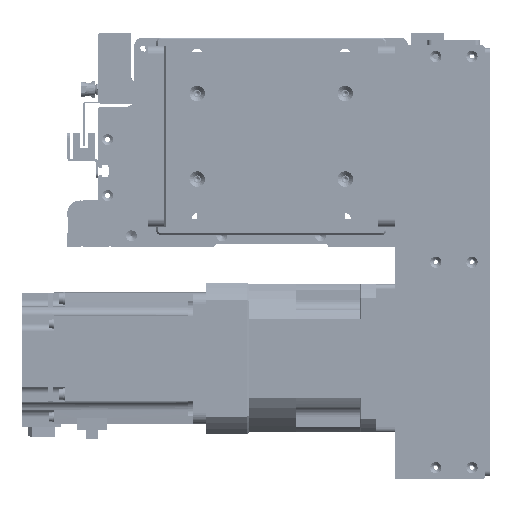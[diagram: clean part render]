
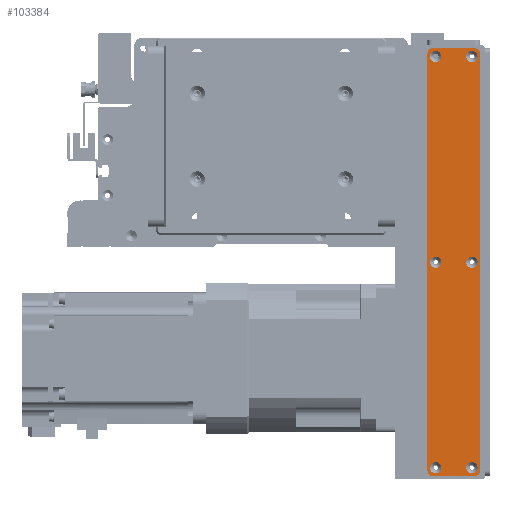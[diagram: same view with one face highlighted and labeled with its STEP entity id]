
A CAD part, front view. The second image highlights one B-rep face of the part: STEP entity #103384.
In plain terms, the highlighted planar face has unit normal (0, -1, 0).
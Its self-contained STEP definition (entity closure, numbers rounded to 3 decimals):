
#3943=FACE_BOUND('',#15254,.T.);
#3944=FACE_BOUND('',#15255,.T.);
#3945=FACE_BOUND('',#15256,.T.);
#3946=FACE_BOUND('',#15257,.T.);
#3947=FACE_BOUND('',#15258,.T.);
#3948=FACE_BOUND('',#15259,.T.);
#9142=FACE_OUTER_BOUND('',#15253,.T.);
#15253=EDGE_LOOP('',(#93286,#93287,#93288,#93289,#93290,#93291,#93292,#93293));
#15254=EDGE_LOOP('',(#93294));
#15255=EDGE_LOOP('',(#93295));
#15256=EDGE_LOOP('',(#93296));
#15257=EDGE_LOOP('',(#93297));
#15258=EDGE_LOOP('',(#93298));
#15259=EDGE_LOOP('',(#93299));
#18063=CIRCLE('',#112177,3.45);
#18066=CIRCLE('',#112182,3.45);
#18069=CIRCLE('',#112187,3.45);
#18072=CIRCLE('',#112192,3.45);
#18075=CIRCLE('',#112197,3.45);
#18078=CIRCLE('',#112202,3.45);
#18081=CIRCLE('',#112207,3.);
#18083=CIRCLE('',#112210,3.);
#18084=CIRCLE('',#112211,3.);
#18085=CIRCLE('',#112212,3.);
#29292=LINE('',#173495,#40616);
#29293=LINE('',#173499,#40617);
#29294=LINE('',#173503,#40618);
#29295=LINE('',#173506,#40619);
#40616=VECTOR('',#139281,10.);
#40617=VECTOR('',#139284,10.);
#40618=VECTOR('',#139287,10.);
#40619=VECTOR('',#139290,10.);
#50270=VERTEX_POINT('',#173425);
#50273=VERTEX_POINT('',#173435);
#50276=VERTEX_POINT('',#173445);
#50279=VERTEX_POINT('',#173455);
#50282=VERTEX_POINT('',#173465);
#50285=VERTEX_POINT('',#173475);
#50288=VERTEX_POINT('',#173485);
#50289=VERTEX_POINT('',#173486);
#50292=VERTEX_POINT('',#173494);
#50293=VERTEX_POINT('',#173496);
#50294=VERTEX_POINT('',#173498);
#50295=VERTEX_POINT('',#173500);
#50296=VERTEX_POINT('',#173502);
#50297=VERTEX_POINT('',#173504);
#64669=EDGE_CURVE('',#50270,#50270,#18063,.T.);
#64674=EDGE_CURVE('',#50273,#50273,#18066,.T.);
#64679=EDGE_CURVE('',#50276,#50276,#18069,.T.);
#64684=EDGE_CURVE('',#50279,#50279,#18072,.T.);
#64689=EDGE_CURVE('',#50282,#50282,#18075,.T.);
#64694=EDGE_CURVE('',#50285,#50285,#18078,.T.);
#64699=EDGE_CURVE('',#50288,#50289,#18081,.T.);
#64703=EDGE_CURVE('',#50288,#50292,#29292,.T.);
#64704=EDGE_CURVE('',#50293,#50292,#18083,.T.);
#64705=EDGE_CURVE('',#50293,#50294,#29293,.T.);
#64706=EDGE_CURVE('',#50295,#50294,#18084,.T.);
#64707=EDGE_CURVE('',#50295,#50296,#29294,.T.);
#64708=EDGE_CURVE('',#50297,#50296,#18085,.T.);
#64709=EDGE_CURVE('',#50297,#50289,#29295,.T.);
#93286=ORIENTED_EDGE('',*,*,#64699,.F.);
#93287=ORIENTED_EDGE('',*,*,#64703,.T.);
#93288=ORIENTED_EDGE('',*,*,#64704,.F.);
#93289=ORIENTED_EDGE('',*,*,#64705,.T.);
#93290=ORIENTED_EDGE('',*,*,#64706,.F.);
#93291=ORIENTED_EDGE('',*,*,#64707,.T.);
#93292=ORIENTED_EDGE('',*,*,#64708,.F.);
#93293=ORIENTED_EDGE('',*,*,#64709,.T.);
#93294=ORIENTED_EDGE('',*,*,#64669,.T.);
#93295=ORIENTED_EDGE('',*,*,#64674,.T.);
#93296=ORIENTED_EDGE('',*,*,#64679,.T.);
#93297=ORIENTED_EDGE('',*,*,#64684,.T.);
#93298=ORIENTED_EDGE('',*,*,#64689,.T.);
#93299=ORIENTED_EDGE('',*,*,#64694,.T.);
#98175=PLANE('',#112209);
#103384=ADVANCED_FACE('',(#9142,#3943,#3944,#3945,#3946,#3947,#3948),#98175,
 .T.);
#112177=AXIS2_PLACEMENT_3D('',#173426,#139201,#139202);
#112182=AXIS2_PLACEMENT_3D('',#173436,#139213,#139214);
#112187=AXIS2_PLACEMENT_3D('',#173446,#139225,#139226);
#112192=AXIS2_PLACEMENT_3D('',#173456,#139237,#139238);
#112197=AXIS2_PLACEMENT_3D('',#173466,#139249,#139250);
#112202=AXIS2_PLACEMENT_3D('',#173476,#139261,#139262);
#112207=AXIS2_PLACEMENT_3D('',#173487,#139273,#139274);
#112209=AXIS2_PLACEMENT_3D('',#173493,#139279,#139280);
#112210=AXIS2_PLACEMENT_3D('',#173497,#139282,#139283);
#112211=AXIS2_PLACEMENT_3D('',#173501,#139285,#139286);
#112212=AXIS2_PLACEMENT_3D('',#173505,#139288,#139289);
#139201=DIRECTION('center_axis',(0.,1.,0.));
#139202=DIRECTION('ref_axis',(1.,0.,0.));
#139213=DIRECTION('center_axis',(0.,1.,0.));
#139214=DIRECTION('ref_axis',(1.,0.,0.));
#139225=DIRECTION('center_axis',(0.,1.,0.));
#139226=DIRECTION('ref_axis',(1.,0.,0.));
#139237=DIRECTION('center_axis',(0.,1.,0.));
#139238=DIRECTION('ref_axis',(1.,0.,0.));
#139249=DIRECTION('center_axis',(0.,1.,0.));
#139250=DIRECTION('ref_axis',(1.,0.,0.));
#139261=DIRECTION('center_axis',(0.,1.,0.));
#139262=DIRECTION('ref_axis',(1.,0.,0.));
#139273=DIRECTION('center_axis',(0.,1.,0.));
#139274=DIRECTION('ref_axis',(-0.707,0.,0.707));
#139279=DIRECTION('center_axis',(0.,-1.,0.));
#139280=DIRECTION('ref_axis',(0.,0.,-1.));
#139281=DIRECTION('',(0.,0.,-1.));
#139282=DIRECTION('center_axis',(0.,1.,0.));
#139283=DIRECTION('ref_axis',(-0.707,0.,-0.707));
#139284=DIRECTION('',(1.,0.,0.));
#139285=DIRECTION('center_axis',(0.,1.,0.));
#139286=DIRECTION('ref_axis',(0.707,0.,-0.707));
#139287=DIRECTION('',(0.,0.,1.));
#139288=DIRECTION('center_axis',(0.,1.,0.));
#139289=DIRECTION('ref_axis',(0.707,0.,0.707));
#139290=DIRECTION('',(-1.,0.,0.));
#173425=CARTESIAN_POINT('',(121.55,-1.5,11.));
#173426=CARTESIAN_POINT('Origin',(125.,-1.5,11.));
#173435=CARTESIAN_POINT('',(-3.45,-1.5,11.));
#173436=CARTESIAN_POINT('Origin',(0.,-1.5,11.));
#173445=CARTESIAN_POINT('',(-128.45,-1.5,11.));
#173446=CARTESIAN_POINT('Origin',(-125.,-1.5,11.));
#173455=CARTESIAN_POINT('',(-128.45,-1.5,-11.));
#173456=CARTESIAN_POINT('Origin',(-125.,-1.5,-11.));
#173465=CARTESIAN_POINT('',(-3.45,-1.5,-11.));
#173466=CARTESIAN_POINT('Origin',(0.,-1.5,-11.));
#173475=CARTESIAN_POINT('',(121.55,-1.5,-11.));
#173476=CARTESIAN_POINT('Origin',(125.,-1.5,-11.));
#173485=CARTESIAN_POINT('',(-130.,-1.5,13.));
#173486=CARTESIAN_POINT('',(-127.,-1.5,16.));
#173487=CARTESIAN_POINT('Origin',(-127.,-1.5,13.));
#173493=CARTESIAN_POINT('Origin',(0.,-1.5,0.));
#173494=CARTESIAN_POINT('',(-130.,-1.5,-13.));
#173495=CARTESIAN_POINT('',(-130.,-1.5,16.));
#173496=CARTESIAN_POINT('',(-127.,-1.5,-16.));
#173497=CARTESIAN_POINT('Origin',(-127.,-1.5,-13.));
#173498=CARTESIAN_POINT('',(127.,-1.5,-16.));
#173499=CARTESIAN_POINT('',(-130.,-1.5,-16.));
#173500=CARTESIAN_POINT('',(130.,-1.5,-13.));
#173501=CARTESIAN_POINT('Origin',(127.,-1.5,-13.));
#173502=CARTESIAN_POINT('',(130.,-1.5,13.));
#173503=CARTESIAN_POINT('',(130.,-1.5,-16.));
#173504=CARTESIAN_POINT('',(127.,-1.5,16.));
#173505=CARTESIAN_POINT('Origin',(127.,-1.5,13.));
#173506=CARTESIAN_POINT('',(130.,-1.5,16.));
